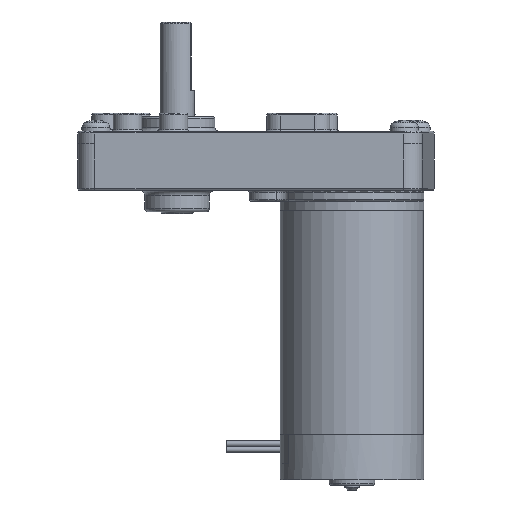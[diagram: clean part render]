
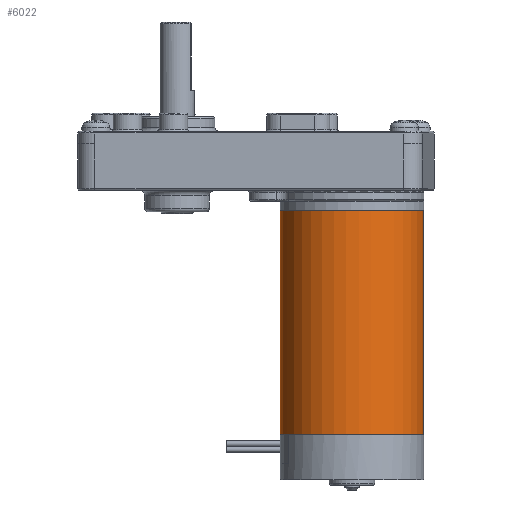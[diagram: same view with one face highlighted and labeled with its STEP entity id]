
A CAD part, left-side view. The second image highlights one B-rep face of the part: STEP entity #6022.
In plain terms, the highlighted cylindrical face has radius 20 mm (diameter 40 mm), a full revolution.
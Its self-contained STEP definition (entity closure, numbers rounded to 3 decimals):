
#1099=FACE_BOUND('',#2066,.T.);
#1476=FACE_OUTER_BOUND('',#2065,.T.);
#2065=EDGE_LOOP('',(#5230));
#2066=EDGE_LOOP('',(#5231));
#2573=CIRCLE('',#6827,20.);
#2574=CIRCLE('',#6828,20.);
#3087=VERTEX_POINT('',#11161);
#3088=VERTEX_POINT('',#11163);
#3828=EDGE_CURVE('',#3087,#3087,#2573,.T.);
#3829=EDGE_CURVE('',#3088,#3088,#2574,.T.);
#5230=ORIENTED_EDGE('',*,*,#3828,.T.);
#5231=ORIENTED_EDGE('',*,*,#3829,.F.);
#5672=CYLINDRICAL_SURFACE('',#6826,20.);
#6022=ADVANCED_FACE('',(#1476,#1099),#5672,.T.);
#6826=AXIS2_PLACEMENT_3D('',#11160,#8530,#8531);
#6827=AXIS2_PLACEMENT_3D('',#11162,#8532,#8533);
#6828=AXIS2_PLACEMENT_3D('',#11164,#8534,#8535);
#8530=DIRECTION('center_axis',(0.,0.,1.));
#8531=DIRECTION('ref_axis',(-1.,0.,0.));
#8532=DIRECTION('center_axis',(0.,0.,-1.));
#8533=DIRECTION('ref_axis',(-1.,0.,0.));
#8534=DIRECTION('center_axis',(0.,0.,-1.));
#8535=DIRECTION('ref_axis',(-1.,0.,0.));
#11160=CARTESIAN_POINT('Origin',(0.,0.,0.));
#11161=CARTESIAN_POINT('',(20.,0.,62.4));
#11162=CARTESIAN_POINT('Origin',(0.,0.,62.4));
#11163=CARTESIAN_POINT('',(20.,0.,0.));
#11164=CARTESIAN_POINT('Origin',(0.,0.,0.));
